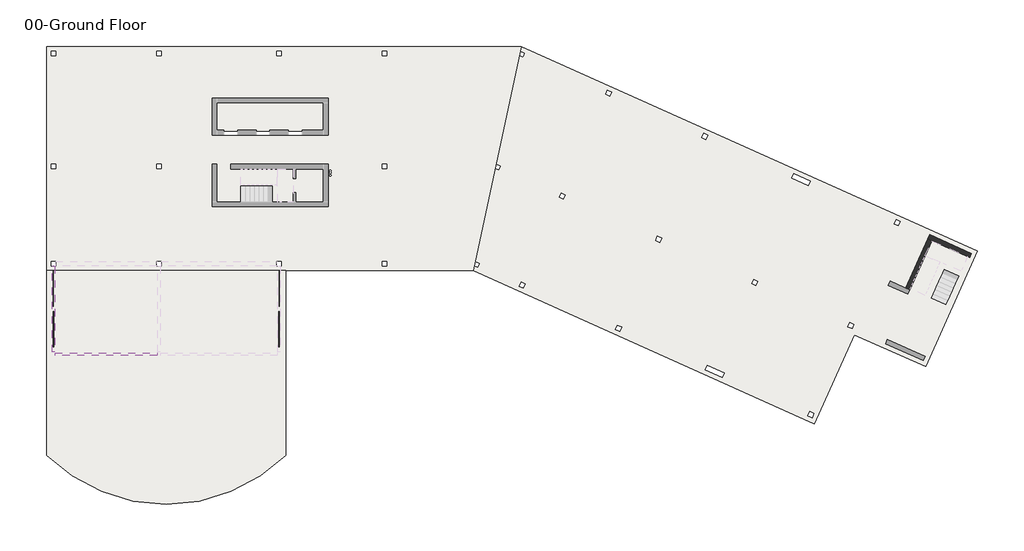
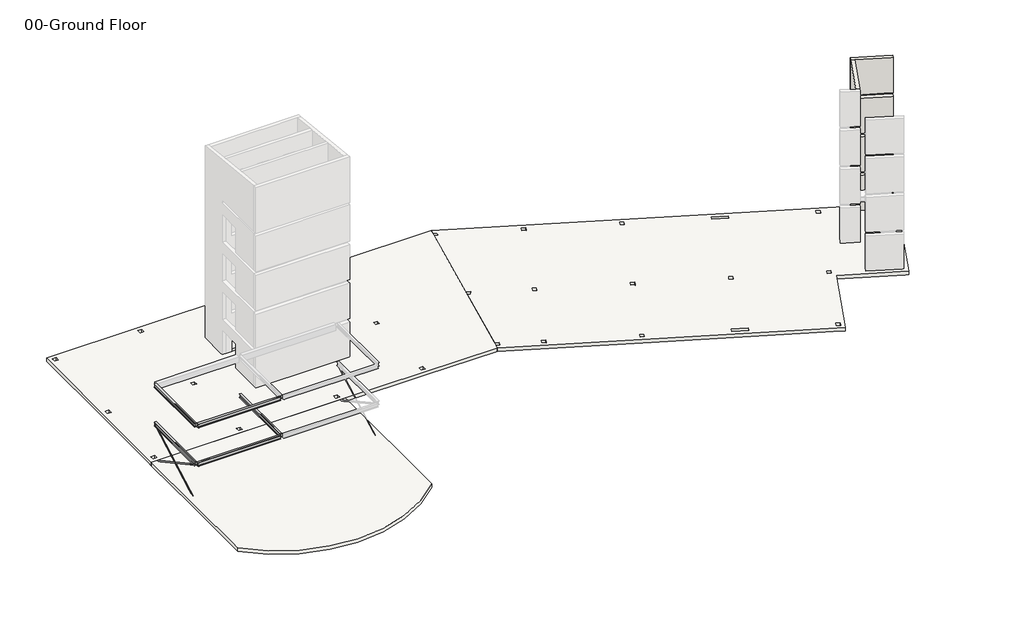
# One storey, part 2 of 5: 5 beams, 3 slabs, 2 members, 2 walls.
"""IFC4 building model written with IfcOpenShell, lengths in millimetres."""

from ifc_helpers import new_model, si_unit, frame, origin, place, context, project, spatial, polyline, circle_curve, faceted_brep, transform, mapped, element, save
from ifc_brep_helpers import plane_surface, cylinder_surface, revolved_surface, advanced_brep
from components import w_shapes_w12x26_268029d0, w_shapes_w12x26_8135fd55, flat_bars_fl_3_8x4_188fb4ee, flat_bars_fl_3_8x4_168c0369

model = new_model("IFC4")

# Units and contexts
model_context = context("Model", 3, world=origin())
ifc_project = project(units=[si_unit("LENGTHUNIT", "METRE", prefix="MILLI")], contexts=[model_context])

# Site, building, storey
site = spatial("IfcSite", under=ifc_project)
building = spatial("IfcBuilding", under=site)
storey = spatial("IfcBuildingStorey", under=building, Name="00-Ground Floor", Elevation=0.0)

# Beams
placement = place(None, origin())
w_shapes_w12x26_shape = w_shapes_w12x26_268029d0(model_context)
element("IfcBeam", 1, ObjectType="W Shapes : W12X26", at=placement, inside=storey, context=model_context, shape_type="MappedRepresentation", body=[
    mapped(w_shapes_w12x26_shape, transform((7010.4, -16998.95, 2994.66), x_axis=(0.0, 1.0, 0.0), y_axis=(-1.0, 0.0, 0.0), z_axis=(0.0, 0.0, 1.0))),
])
element("IfcBeam", 2, ObjectType="W Shapes : W12X26", at=placement, inside=storey, context=model_context, shape_type="MappedRepresentation", body=[
    mapped(w_shapes_w12x26_shape, transform((0.0, -16998.95, 2994.66), x_axis=(0.0, 1.0, 0.0), y_axis=(-1.0, 0.0, 0.0), z_axis=(0.0, 0.0, 1.0))),
])
element("IfcBeam", 3, ObjectType="W Shapes : W12X26", at=placement, inside=storey, context=model_context, shape_type="MappedRepresentation", body=[
    mapped(w_shapes_w12x26_shape, transform((0.0, -16998.95, 6347.46), x_axis=(0.0, 1.0, 0.0), y_axis=(-1.0, 0.0, 0.0), z_axis=(0.0, 0.0, 1.0))),
])
w_shapes_w12x26_2_shape = w_shapes_w12x26_8135fd55(model_context)
element("IfcBeam", 4, ObjectType="W Shapes : W12X26", at=placement, inside=storey, context=model_context, shape_type="MappedRepresentation", body=[
    mapped(w_shapes_w12x26_2_shape, transform((3505.2, -20002.5, 2994.66), x_axis=(-1.0, 0.0, 0.0), y_axis=(0.0, -1.0, 0.0), z_axis=(0.0, 0.0, 1.0))),
])
element("IfcBeam", 5, ObjectType="W Shapes : W12X26", at=placement, inside=storey, context=model_context, shape_type="MappedRepresentation", body=[
    mapped(w_shapes_w12x26_2_shape, transform((3505.2, -20002.5, 6347.46), x_axis=(-1.0, 0.0, 0.0), y_axis=(0.0, -1.0, 0.0), z_axis=(0.0, 0.0, 1.0))),
])

# Members
flat_bars_fl_3_8x4_shape = flat_bars_fl_3_8x4_188fb4ee(model_context)
element("IfcMember", 6, ObjectType="Flat Bars : FL 3/8X4", at=placement, inside=storey, context=model_context, shape_type="MappedRepresentation", body=[
    mapped(flat_bars_fl_3_8x4_shape, transform((9.525, -16998.95, 1344.93), x_axis=(0.0, 0.8764896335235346, 0.4814207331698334), y_axis=(-1.0, 0.0, 0.0), z_axis=(0.0, -0.4814207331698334, 0.8764896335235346))),
])
flat_bars_fl_3_8x4_2_shape = flat_bars_fl_3_8x4_168c0369(model_context)
element("IfcMember", 7, ObjectType="Flat Bars : FL 3/8X4", at=placement, inside=storey, context=model_context, shape_type="MappedRepresentation", body=[
    mapped(flat_bars_fl_3_8x4_2_shape, transform((0.0, -16998.95, 1344.93), x_axis=(0.0, -0.8764896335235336, 0.48142073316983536), y_axis=(1.0, 0.0, 0.0), z_axis=(0.0, 0.48142073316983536, 0.8764896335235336))),
])

# Slabs
element("IfcSlab", 8, ObjectType="RC Slab 12\"", at=placement, inside=storey, context=model_context, shape_type="SolidModel", body=[
    faceted_brep([(10858.5, -3289.3, -304.8), (12712.7, -3289.3, -304.8), (13017.5, -3289.3, -304.8), (14846.3, -3289.3, -304.8), (15151.1, -3289.3, -304.8), (17945.1, -3289.3, -304.8), (17945.1, -5168.9, -304.8), (15151.1, -5168.9, -304.8), (14846.3, -5168.9, -304.8), (13017.5, -5168.9, -304.8), (12712.7, -5168.9, -304.8), (10858.5, -5168.9, -304.8), (17945.1, -3289.3, 0.0), (15151.1, -3289.3, 0.0), (14846.3, -3289.3, 0.0), (13017.5, -3289.3, 0.0), (12712.7, -3289.3, 0.0), (10858.5, -3289.3, 0.0), (10858.5, -5118.1, 0.0), (10858.5, -5168.9, 0.0), (17945.1, -5168.9, 0.0), (17945.1, -5118.1, 0.0)], [[[0, 1, 2, 3, 4, 5, 6, 7, 8, 9, 10, 11]], [[12, 13, 14, 15, 16, 17, 18, 19, 20, 21]], [[5, 4, 3, 2, 1, 0, 17, 16, 15, 14, 13, 12]], [[0, 11, 19, 18, 17]], [[6, 20, 19, 11, 10, 9, 8, 7]], [[6, 5, 12, 21, 20]]]),
    advanced_brep(
    [(-457.2, 457.2, -304.8), (7010.4, 457.2, -304.8), (14998.7, 457.2, -304.8), (22009.1, 457.2, -304.8), (31098.7387393, 457.2, -304.8), (30902.7958822, -457.2, -304.8), (28099.7244536, -13538.2, -304.8), (27903.7815965, -14452.6, -304.8), (22009.1, -14452.6, -304.8), (15455.9, -14452.6, -304.8), (-457.2, -14452.6, -304.8), (-457.2, -13995.4, -304.8), (-457.2, -7505.7, -304.8), (18347.8020543, -8109.4381113, -304.8), (18449.4020543, -8109.4381113, -304.8), (18347.8020543, -7957.0381113, -304.8), (18449.4020543, -7957.0381113, -304.8), (18347.8020543, -7804.6381113, -304.8), (18449.4020543, -7804.6381113, -304.8), (152.4, -152.4, -304.8), (152.4, 152.4, -304.8), (-152.4, 152.4, -304.8), (-152.4, -152.4, -304.8), (7162.8, -152.4, -304.8), (7162.8, 152.4, -304.8), (6858.0, 152.4, -304.8), (6858.0, -152.4, -304.8), (15151.1, -152.4, -304.8), (15151.1, 152.4, -304.8), (14846.3, 152.4, -304.8), (14846.3, -152.4, -304.8), (22161.5, -152.4, -304.8), (22161.5, 152.4, -304.8), (21856.7, 152.4, -304.8), (21856.7, -152.4, -304.8), (22161.5, -7658.1, -304.8), (22161.5, -7353.3, -304.8), (21856.7, -7353.3, -304.8), (21856.7, -7658.1, -304.8), (7162.8, -7658.1, -304.8), (7162.8, -7353.3, -304.8), (6858.0, -7353.3, -304.8), (6858.0, -7658.1, -304.8), (152.4, -7658.1, -304.8), (152.4, -7353.3, -304.8), (-152.4, -7353.3, -304.8), (-152.4, -7658.1, -304.8), (152.4, -14147.8, -304.8), (152.4, -13843.0, -304.8), (-152.4, -13843.0, -304.8), (-152.4, -14147.8, -304.8), (15151.1, -14147.8, -304.8), (15151.1, -13843.0, -304.8), (14846.3, -13843.0, -304.8), (14846.3, -14147.8, -304.8), (22161.5, -14147.8, -304.8), (22161.5, -13843.0, -304.8), (21856.7, -13843.0, -304.8), (21856.7, -14147.8, -304.8), (7162.8, -14147.8, -304.8), (7162.8, -13843.0, -304.8), (6858.0, -13843.0, -304.8), (6858.0, -14147.8, -304.8), (10553.7, -5422.9, -304.8), (18249.9, -5422.9, -304.8), (18249.9, -2984.5, -304.8), (15252.7, -2984.5, -304.8), (14744.7, -2984.5, -304.8), (10553.7, -2984.5, -304.8), (31098.7387393, 457.2, 0.0), (-457.2, 457.2, 0.0), (-457.2, -14452.6, 0.0), (15455.9, -14452.6, 0.0), (27903.7815965, -14452.6, 0.0), (18449.4020543, -8109.4381113, 0.0), (18347.8020543, -8109.4381113, 0.0), (18449.4020543, -7957.0381113, 0.0), (18347.8020543, -7957.0381113, 0.0), (18449.4020543, -7804.6381113, 0.0), (18347.8020543, -7804.6381113, 0.0), (18249.9, -2984.5, 0.0), (18249.9, -3289.3, 0.0), (18249.9, -5422.9, 0.0), (17945.1, -5422.9, 0.0), (10553.7, -5422.9, 0.0), (10553.7, -5168.9, 0.0), (10553.7, -2984.5, 0.0), (10858.5, -2984.5, 0.0), (152.4, 152.4, 0.0), (152.4, -152.4, 0.0), (-152.4, -152.4, 0.0), (-152.4, 152.4, 0.0), (7162.8, 152.4, 0.0), (7162.8, -152.4, 0.0), (6858.0, -152.4, 0.0), (6858.0, 152.4, 0.0), (15151.1, 152.4, 0.0), (15151.1, -152.4, 0.0), (14846.3, -152.4, 0.0), (14846.3, 152.4, 0.0), (22161.5, 152.4, 0.0), (22161.5, -152.4, 0.0), (21856.7, -152.4, 0.0), (21856.7, 152.4, 0.0), (22161.5, -7353.3, 0.0), (22161.5, -7658.1, 0.0), (21856.7, -7658.1, 0.0), (21856.7, -7353.3, 0.0), (7162.8, -7353.3, 0.0), (7162.8, -7658.1, 0.0), (6858.0, -7658.1, 0.0), (6858.0, -7353.3, 0.0), (152.4, -7353.3, 0.0), (152.4, -7658.1, 0.0), (-152.4, -7658.1, 0.0), (-152.4, -7353.3, 0.0), (152.4, -13843.0, 0.0), (152.4, -14147.8, 0.0), (-152.4, -14147.8, 0.0), (-152.4, -13843.0, 0.0), (15151.1, -13843.0, 0.0), (15151.1, -14147.8, 0.0), (14846.3, -14147.8, 0.0), (14846.3, -13843.0, 0.0), (22161.5, -13843.0, 0.0), (22161.5, -14147.8, 0.0), (21856.7, -14147.8, 0.0), (21856.7, -13843.0, 0.0), (7162.8, -13843.0, 0.0), (7162.8, -14147.8, 0.0), (6858.0, -14147.8, 0.0), (6858.0, -13843.0, 0.0)],
    [
        (0, 1),
        (1, 2),
        (2, 3),
        (3, 4),
        (4, 5),
        (5, 6),
        (6, 7),
        (7, 8),
        (8, 9),
        (9, 10),
        (10, 11),
        (11, 12),
        (12, 0),
        (13, 14, circle_curve(frame((18398.6020543, -8109.4381113, -304.8), z_axis=(0.0, 0.0, 1.0), x_axis=(1.0, 0.0, 0.0)), 50.8)),
        (14, 13, circle_curve(frame((18398.6020543, -8109.4381113, -304.8), z_axis=(0.0, 0.0, 1.0), x_axis=(1.0, 0.0, 0.0)), 50.8)),
        (15, 16, circle_curve(frame((18398.6020543, -7957.0381113, -304.8), z_axis=(0.0, 0.0, 1.0), x_axis=(1.0, 0.0, 0.0)), 50.8)),
        (16, 15, circle_curve(frame((18398.6020543, -7957.0381113, -304.8), z_axis=(0.0, 0.0, 1.0), x_axis=(1.0, 0.0, 0.0)), 50.8)),
        (17, 18, circle_curve(frame((18398.6020543, -7804.6381113, -304.8), z_axis=(0.0, 0.0, 1.0), x_axis=(1.0, 0.0, 0.0)), 50.8)),
        (18, 17, circle_curve(frame((18398.6020543, -7804.6381113, -304.8), z_axis=(0.0, 0.0, 1.0), x_axis=(1.0, 0.0, 0.0)), 50.8)),
        (19, 20),
        (20, 21),
        (21, 22),
        (22, 19),
        (23, 24),
        (24, 25),
        (25, 26),
        (26, 23),
        (27, 28),
        (28, 29),
        (29, 30),
        (30, 27),
        (31, 32),
        (32, 33),
        (33, 34),
        (34, 31),
        (35, 36),
        (36, 37),
        (37, 38),
        (38, 35),
        (39, 40),
        (40, 41),
        (41, 42),
        (42, 39),
        (43, 44),
        (44, 45),
        (45, 46),
        (46, 43),
        (47, 48),
        (48, 49),
        (49, 50),
        (50, 47),
        (51, 52),
        (52, 53),
        (53, 54),
        (54, 51),
        (55, 56),
        (56, 57),
        (57, 58),
        (58, 55),
        (59, 60),
        (60, 61),
        (61, 62),
        (62, 59),
        (63, 64),
        (64, 65),
        (65, 66),
        (66, 67),
        (67, 68),
        (68, 63),
        (69, 70),
        (70, 71),
        (71, 72),
        (72, 73),
        (73, 69),
        (74, 75, circle_curve(frame((18398.6020543, -8109.4381113, 0.0), z_axis=(0.0, 0.0, -1.0), x_axis=(1.0, 0.0, 0.0)), 50.8)),
        (75, 74, circle_curve(frame((18398.6020543, -8109.4381113, 0.0), z_axis=(0.0, 0.0, -1.0), x_axis=(1.0, 0.0, 0.0)), 50.8)),
        (76, 77, circle_curve(frame((18398.6020543, -7957.0381113, 0.0), z_axis=(0.0, 0.0, -1.0), x_axis=(1.0, 0.0, 0.0)), 50.8)),
        (77, 76, circle_curve(frame((18398.6020543, -7957.0381113, 0.0), z_axis=(0.0, 0.0, -1.0), x_axis=(1.0, 0.0, 0.0)), 50.8)),
        (78, 79, circle_curve(frame((18398.6020543, -7804.6381113, 0.0), z_axis=(0.0, 0.0, -1.0), x_axis=(1.0, 0.0, 0.0)), 50.8)),
        (79, 78, circle_curve(frame((18398.6020543, -7804.6381113, 0.0), z_axis=(0.0, 0.0, -1.0), x_axis=(1.0, 0.0, 0.0)), 50.8)),
        (80, 81),
        (81, 82),
        (82, 83),
        (83, 84),
        (84, 85),
        (85, 86),
        (86, 87),
        (87, 80),
        (88, 89),
        (89, 90),
        (90, 91),
        (91, 88),
        (92, 93),
        (93, 94),
        (94, 95),
        (95, 92),
        (96, 97),
        (97, 98),
        (98, 99),
        (99, 96),
        (100, 101),
        (101, 102),
        (102, 103),
        (103, 100),
        (104, 105),
        (105, 106),
        (106, 107),
        (107, 104),
        (108, 109),
        (109, 110),
        (110, 111),
        (111, 108),
        (112, 113),
        (113, 114),
        (114, 115),
        (115, 112),
        (116, 117),
        (117, 118),
        (118, 119),
        (119, 116),
        (120, 121),
        (121, 122),
        (122, 123),
        (123, 120),
        (124, 125),
        (125, 126),
        (126, 127),
        (127, 124),
        (128, 129),
        (129, 130),
        (130, 131),
        (131, 128),
        (0, 70),
        (69, 4),
        (73, 7),
        (71, 10),
        (13, 75),
        (74, 14),
        (15, 77),
        (76, 16),
        (17, 79),
        (78, 18),
        (65, 80),
        (86, 68),
        (64, 82),
        (84, 63),
        (19, 89),
        (88, 20),
        (22, 90),
        (21, 91),
        (23, 93),
        (92, 24),
        (26, 94),
        (25, 95),
        (27, 97),
        (96, 28),
        (30, 98),
        (29, 99),
        (31, 101),
        (100, 32),
        (34, 102),
        (33, 103),
        (35, 105),
        (104, 36),
        (38, 106),
        (37, 107),
        (39, 109),
        (108, 40),
        (42, 110),
        (41, 111),
        (43, 113),
        (112, 44),
        (46, 114),
        (45, 115),
        (47, 117),
        (116, 48),
        (50, 118),
        (49, 119),
        (51, 121),
        (120, 52),
        (54, 122),
        (53, 123),
        (55, 125),
        (124, 56),
        (58, 126),
        (57, 127),
        (59, 129),
        (128, 60),
        (62, 130),
        (61, 131),
    ],
    [
        plane_surface(frame((0.0, 457.2, -304.8), z_axis=(0.0, 0.0, -1.0), x_axis=(1.0, 0.0, 0.0))),
        plane_surface(frame((0.0, 457.2, 0.0), z_axis=(0.0, 0.0, 1.0), x_axis=(-1.0, 0.0, 0.0))),
        plane_surface(frame((-457.2, 457.2, -304.8), z_axis=(0.0, 1.0, 0.0), x_axis=(0.0, 0.0, 1.0))),
        plane_surface(frame((31098.7387393, 457.2, -304.8), z_axis=(0.9778024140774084, -0.2095290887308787, 0.0), x_axis=(0.0, 0.0, 1.0))),
        plane_surface(frame((27903.7815965, -14452.6, -304.8), z_axis=(0.0, -1.0, 0.0), x_axis=(0.0, 0.0, 1.0))),
        plane_surface(frame((-457.2, -14452.6, -304.8), z_axis=(-1.0, 0.0, 0.0), x_axis=(0.0, 0.0, 1.0))),
        revolved_surface(polyline([(18449.4020543, -8109.4381113, 0.0), (18449.4020543, -8109.4381113, -304.8)]), (18398.6020543, -8109.4381113, -609.6), (0.0, 0.0, 1.0)),
        revolved_surface(polyline([(18449.4020543, -7957.0381113, 0.0), (18449.4020543, -7957.0381113, -304.8)]), (18398.6020543, -7957.0381113, -609.6), (0.0, 0.0, 1.0)),
        revolved_surface(polyline([(18449.4020543, -7804.6381113, 0.0), (18449.4020543, -7804.6381113, -304.8)]), (18398.6020543, -7804.6381113, -609.6), (0.0, 0.0, 1.0)),
        plane_surface(frame((17694.8895727, -2984.5, -2133.6), z_axis=(0.0, -1.0, 0.0), x_axis=(-1.0, 0.0, 0.0))),
        plane_surface(frame((18249.9, -6083.3, -2133.6), z_axis=(-1.0, 0.0, 0.0), x_axis=(0.0, 1.0, 0.0))),
        plane_surface(frame((10553.7, -5829.3, -2133.6), z_axis=(1.0, 0.0, 0.0), x_axis=(0.0, -1.0, 0.0))),
        plane_surface(frame((10706.1, -5422.9, -2133.6), z_axis=(0.0, 1.0, 0.0), x_axis=(1.0, 0.0, 0.0))),
        plane_surface(frame((152.4, -152.4, 10058.4), z_axis=(-1.0, 0.0, 0.0), x_axis=(0.0, 0.0, -1.0))),
        plane_surface(frame((-152.4, -152.4, 10058.4), z_axis=(0.0, 1.0, 0.0), x_axis=(0.0, 0.0, -1.0))),
        plane_surface(frame((-152.4, 152.4, 10058.4), z_axis=(1.0, 0.0, 0.0), x_axis=(0.0, 0.0, -1.0))),
        plane_surface(frame((152.4, 152.4, 10058.4), z_axis=(0.0, -1.0, 0.0), x_axis=(0.0, 0.0, -1.0))),
        plane_surface(frame((7162.8, -152.4, 10058.4), z_axis=(-1.0, 0.0, 0.0), x_axis=(0.0, 0.0, -1.0))),
        plane_surface(frame((6858.0, -152.4, 10058.4), z_axis=(0.0, 1.0, 0.0), x_axis=(0.0, 0.0, -1.0))),
        plane_surface(frame((6858.0, 152.4, 10058.4), z_axis=(1.0, 0.0, 0.0), x_axis=(0.0, 0.0, -1.0))),
        plane_surface(frame((7162.8, 152.4, 10058.4), z_axis=(0.0, -1.0, 0.0), x_axis=(0.0, 0.0, -1.0))),
        plane_surface(frame((15151.1, -152.4, 10058.4), z_axis=(-1.0, 0.0, 0.0), x_axis=(0.0, 0.0, -1.0))),
        plane_surface(frame((14846.3, -152.4, 10058.4), z_axis=(0.0, 1.0, 0.0), x_axis=(0.0, 0.0, -1.0))),
        plane_surface(frame((14846.3, 152.4, 10058.4), z_axis=(1.0, 0.0, 0.0), x_axis=(0.0, 0.0, -1.0))),
        plane_surface(frame((15151.1, 152.4, 10058.4), z_axis=(0.0, -1.0, 0.0), x_axis=(0.0, 0.0, -1.0))),
        plane_surface(frame((22161.5, -152.4, 10058.4), z_axis=(-1.0, 0.0, 0.0), x_axis=(0.0, 0.0, -1.0))),
        plane_surface(frame((21856.7, -152.4, 10058.4), z_axis=(0.0, 1.0, 0.0), x_axis=(0.0, 0.0, -1.0))),
        plane_surface(frame((21856.7, 152.4, 10058.4), z_axis=(1.0, 0.0, 0.0), x_axis=(0.0, 0.0, -1.0))),
        plane_surface(frame((22161.5, 152.4, 10058.4), z_axis=(0.0, -1.0, 0.0), x_axis=(0.0, 0.0, -1.0))),
        plane_surface(frame((22161.5, -7658.1, 10058.4), z_axis=(-1.0, 0.0, 0.0), x_axis=(0.0, 0.0, -1.0))),
        plane_surface(frame((21856.7, -7658.1, 10058.4), z_axis=(0.0, 1.0, 0.0), x_axis=(0.0, 0.0, -1.0))),
        plane_surface(frame((21856.7, -7353.3, 10058.4), z_axis=(1.0, 0.0, 0.0), x_axis=(0.0, 0.0, -1.0))),
        plane_surface(frame((22161.5, -7353.3, 10058.4), z_axis=(0.0, -1.0, 0.0), x_axis=(0.0, 0.0, -1.0))),
        plane_surface(frame((7162.8, -7658.1, 10058.4), z_axis=(-1.0, 0.0, 0.0), x_axis=(0.0, 0.0, -1.0))),
        plane_surface(frame((6858.0, -7658.1, 10058.4), z_axis=(0.0, 1.0, 0.0), x_axis=(0.0, 0.0, -1.0))),
        plane_surface(frame((6858.0, -7353.3, 10058.4), z_axis=(1.0, 0.0, 0.0), x_axis=(0.0, 0.0, -1.0))),
        plane_surface(frame((7162.8, -7353.3, 10058.4), z_axis=(0.0, -1.0, 0.0), x_axis=(0.0, 0.0, -1.0))),
        plane_surface(frame((152.4, -7658.1, 10058.4), z_axis=(-1.0, 0.0, 0.0), x_axis=(0.0, 0.0, -1.0))),
        plane_surface(frame((-152.4, -7658.1, 10058.4), z_axis=(0.0, 1.0, 0.0), x_axis=(0.0, 0.0, -1.0))),
        plane_surface(frame((-152.4, -7353.3, 10058.4), z_axis=(1.0, 0.0, 0.0), x_axis=(0.0, 0.0, -1.0))),
        plane_surface(frame((152.4, -7353.3, 10058.4), z_axis=(0.0, -1.0, 0.0), x_axis=(0.0, 0.0, -1.0))),
        plane_surface(frame((152.4, -14147.8, 10058.4), z_axis=(-1.0, 0.0, 0.0), x_axis=(0.0, 0.0, -1.0))),
        plane_surface(frame((-152.4, -14147.8, 10058.4), z_axis=(0.0, 1.0, 0.0), x_axis=(0.0, 0.0, -1.0))),
        plane_surface(frame((-152.4, -13843.0, 10058.4), z_axis=(1.0, 0.0, 0.0), x_axis=(0.0, 0.0, -1.0))),
        plane_surface(frame((152.4, -13843.0, 10058.4), z_axis=(0.0, -1.0, 0.0), x_axis=(0.0, 0.0, -1.0))),
        plane_surface(frame((15151.1, -14147.8, 10058.4), z_axis=(-1.0, 0.0, 0.0), x_axis=(0.0, 0.0, -1.0))),
        plane_surface(frame((14846.3, -14147.8, 10058.4), z_axis=(0.0, 1.0, 0.0), x_axis=(0.0, 0.0, -1.0))),
        plane_surface(frame((14846.3, -13843.0, 10058.4), z_axis=(1.0, 0.0, 0.0), x_axis=(0.0, 0.0, -1.0))),
        plane_surface(frame((15151.1, -13843.0, 10058.4), z_axis=(0.0, -1.0, 0.0), x_axis=(0.0, 0.0, -1.0))),
        plane_surface(frame((22161.5, -14147.8, 10058.4), z_axis=(-1.0, 0.0, 0.0), x_axis=(0.0, 0.0, -1.0))),
        plane_surface(frame((21856.7, -14147.8, 10058.4), z_axis=(0.0, 1.0, 0.0), x_axis=(0.0, 0.0, -1.0))),
        plane_surface(frame((21856.7, -13843.0, 10058.4), z_axis=(1.0, 0.0, 0.0), x_axis=(0.0, 0.0, -1.0))),
        plane_surface(frame((22161.5, -13843.0, 10058.4), z_axis=(0.0, -1.0, 0.0), x_axis=(0.0, 0.0, -1.0))),
        plane_surface(frame((7162.8, -14147.8, 10058.4), z_axis=(-1.0, 0.0, 0.0), x_axis=(0.0, 0.0, -1.0))),
        plane_surface(frame((6858.0, -14147.8, 10058.4), z_axis=(0.0, 1.0, 0.0), x_axis=(0.0, 0.0, -1.0))),
        plane_surface(frame((6858.0, -13843.0, 10058.4), z_axis=(1.0, 0.0, 0.0), x_axis=(0.0, 0.0, -1.0))),
        plane_surface(frame((7162.8, -13843.0, 10058.4), z_axis=(0.0, -1.0, 0.0), x_axis=(0.0, 0.0, -1.0))),
    ],
    [
        (0, [[1, 2, 3, 4, 5, 6, 7, 8, 9, 10, 11, 12, 13], [14, 15], [16, 17], [18, 19], [20, 21, 22, 23], [24, 25, 26, 27], [28, 29, 30, 31], [32, 33, 34, 35], [36, 37, 38, 39], [40, 41, 42, 43], [44, 45, 46, 47], [48, 49, 50, 51], [52, 53, 54, 55], [56, 57, 58, 59], [60, 61, 62, 63], [64, 65, 66, 67, 68, 69]]),
        (1, [[70, 71, 72, 73, 74], [75, 76], [77, 78], [79, 80], [81, 82, 83, 84, 85, 86, 87, 88], [89, 90, 91, 92], [93, 94, 95, 96], [97, 98, 99, 100], [101, 102, 103, 104], [105, 106, 107, 108], [109, 110, 111, 112], [113, 114, 115, 116], [117, 118, 119, 120], [121, 122, 123, 124], [125, 126, 127, 128], [129, 130, 131, 132]]),
        (2, [[-4, -3, -2, -1, 133, -70, 134]]),
        (3, [[-7, -6, -5, -134, -74, 135]]),
        (4, [[-10, -9, -8, -135, -73, -72, 136]]),
        (5, [[-13, -12, -11, -136, -71, -133]]),
        (6, [[137, -75, 138, -14]]),
        (6, [[-137, -15, -138, -76]]),
        (7, [[139, -77, 140, -16]]),
        (7, [[-139, -17, -140, -78]]),
        (8, [[141, -79, 142, -18]]),
        (8, [[-141, -19, -142, -80]]),
        (9, [[143, -88, -87, 144, -68, -67, -66]]),
        (10, [[-143, -65, 145, -82, -81]]),
        (11, [[-144, -86, -85, 146, -69]]),
        (12, [[-146, -84, -83, -145, -64]]),
        (13, [[147, -89, 148, -20]]),
        (14, [[-147, -23, 149, -90]]),
        (15, [[-149, -22, 150, -91]]),
        (16, [[-150, -21, -148, -92]]),
        (17, [[151, -93, 152, -24]]),
        (18, [[-151, -27, 153, -94]]),
        (19, [[-153, -26, 154, -95]]),
        (20, [[-154, -25, -152, -96]]),
        (21, [[155, -97, 156, -28]]),
        (22, [[-155, -31, 157, -98]]),
        (23, [[-157, -30, 158, -99]]),
        (24, [[-158, -29, -156, -100]]),
        (25, [[159, -101, 160, -32]]),
        (26, [[-159, -35, 161, -102]]),
        (27, [[-161, -34, 162, -103]]),
        (28, [[-162, -33, -160, -104]]),
        (29, [[163, -105, 164, -36]]),
        (30, [[-163, -39, 165, -106]]),
        (31, [[-165, -38, 166, -107]]),
        (32, [[-166, -37, -164, -108]]),
        (33, [[167, -109, 168, -40]]),
        (34, [[-167, -43, 169, -110]]),
        (35, [[-169, -42, 170, -111]]),
        (36, [[-170, -41, -168, -112]]),
        (37, [[171, -113, 172, -44]]),
        (38, [[-171, -47, 173, -114]]),
        (39, [[-173, -46, 174, -115]]),
        (40, [[-174, -45, -172, -116]]),
        (41, [[175, -117, 176, -48]]),
        (42, [[-175, -51, 177, -118]]),
        (43, [[-177, -50, 178, -119]]),
        (44, [[-178, -49, -176, -120]]),
        (45, [[179, -121, 180, -52]]),
        (46, [[-179, -55, 181, -122]]),
        (47, [[-181, -54, 182, -123]]),
        (48, [[-182, -53, -180, -124]]),
        (49, [[183, -125, 184, -56]]),
        (50, [[-183, -59, 185, -126]]),
        (51, [[-185, -58, 186, -127]]),
        (52, [[-186, -57, -184, -128]]),
        (53, [[187, -129, 188, -60]]),
        (54, [[-187, -63, 189, -130]]),
        (55, [[-189, -62, 190, -131]]),
        (56, [[-190, -61, -188, -132]]),
    ],
),
])
element("IfcSlab", 9, ObjectType="RC Slab 12\"", at=placement, inside=storey, context=model_context, shape_type="Brep", body=[
    faceted_brep([(61413.0546278, -13159.9258537, -304.8), (61308.976579, -13391.6234146, -304.8), (57962.8673107, -20840.7, -304.8), (57731.1697498, -20736.6219512, -304.8), (53236.2370668, -18717.5078049, -304.8), (50577.0429205, -24637.3804878, -304.8), (50345.3453595, -24533.302439, -304.8), (37370.2819449, -18704.9317073, -304.8), (27903.7815965, -14452.6, -304.8), (27969.0988162, -14147.786308, -304.8), (28217.3432689, -14259.3121951, -304.8), (28342.2369275, -13981.275122, -304.8), (28034.4045592, -13843.0124873, -304.8), (28099.7244536, -13538.2, -304.8), (29359.7488162, -7658.086308, -304.8), (29607.9932689, -7769.6121951, -304.8), (29732.8869275, -7491.575122, -304.8), (29425.0545592, -7353.3124873, -304.8), (30902.7958822, -457.2, -304.8), (30968.1131019, -152.386308, -304.8), (31216.3575546, -263.9121951, -304.8), (31341.2512132, 14.124878, -304.8), (31033.4188449, 152.3875127, -304.8), (31098.7387393, 457.2, -304.8), (43479.6634083, -5104.284878, -304.8), (37098.9356034, -2572.2146341, -304.8), (36820.8985303, -2447.3209756, -304.8), (36696.0048717, -2725.3580488, -304.8), (36974.0419449, -2850.2517073, -304.8), (43493.7882864, -5444.7687805, -304.8), (43215.7512132, -5319.875122, -304.8), (43090.8575546, -5597.9121951, -304.8), (43368.8946278, -5722.8058537, -304.8), (56283.4936522, -11189.8770732, -304.8), (56005.456579, -11064.9834146, -304.8), (55880.5629205, -11343.0204878, -304.8), (56158.5999937, -11467.9141463, -304.8), (53207.9873107, -18036.54, -304.8), (52929.9502376, -17911.6463415, -304.8), (52805.056579, -18189.6834146, -304.8), (53083.0936522, -18314.5770732, -304.8), (50548.7931644, -23956.4126829, -304.8), (50270.7560912, -23831.5190244, -304.8), (50145.8624327, -24109.5560976, -304.8), (50423.8995059, -24234.4497561, -304.8), (37759.0877985, -18211.3043902, -304.8), (37481.0507254, -18086.4107317, -304.8), (37356.1570668, -18364.4478049, -304.8), (37634.19414, -18489.3414634, -304.8), (31364.2351156, -15338.7502439, -304.8), (31086.1980425, -15213.8565854, -304.8), (30961.3043839, -15491.8936585, -304.8), (31239.3414571, -15616.7873171, -304.8), (34023.429262, -9418.877561, -304.8), (33745.3921888, -9293.9839024, -304.8), (33620.4985303, -9572.0209756, -304.8), (33898.5356034, -9696.9146341, -304.8), (40418.2819449, -12291.4317073, -304.8), (40140.2448717, -12166.5380488, -304.8), (40015.3512132, -12444.575122, -304.8), (40293.3882864, -12569.4687805, -304.8), (46813.1346278, -15163.9858537, -304.8), (46535.0975546, -15039.0921951, -304.8), (46410.2038961, -15317.1292683, -304.8), (46688.2409693, -15442.0229268, -304.8), (43333.95414, -21049.6614634, -304.8), (44446.1024327, -21549.2360976, -304.8), (44570.9960912, -21271.1990244, -304.8), (43458.8477985, -20771.6243902, -304.8), (49068.6546278, -8283.1258537, -304.8), (50180.8029205, -8782.7004878, -304.8), (50305.696579, -8504.6634146, -304.8), (49193.5482864, -8005.0887805, -304.8), (57962.8673107, -20840.7, 0.0), (61413.0546278, -13159.9258537, 0.0), (31098.7387393, 457.2, 0.0), (31033.4244536, 152.4, 0.0), (31341.2512132, 14.124878, 0.0), (31216.3575546, -263.9121951, 0.0), (30968.1131019, -152.386308, 0.0), (29425.0601679, -7353.3, 0.0), (29732.8869275, -7491.575122, 0.0), (29607.9932689, -7769.6121951, 0.0), (29359.7488162, -7658.086308, 0.0), (28034.4101679, -13843.0, 0.0), (28342.2369275, -13981.275122, 0.0), (28217.3432689, -14259.3121951, 0.0), (27969.0988162, -14147.786308, 0.0), (27903.7815965, -14452.6, 0.0), (50577.0429205, -24637.3804878, 0.0), (53236.2370668, -18717.5078049, 0.0), (36820.8985303, -2447.3209756, 0.0), (37098.9356034, -2572.2146341, 0.0), (36974.0419449, -2850.2517073, 0.0), (36696.0048717, -2725.3580488, 0.0), (43215.7512132, -5319.875122, 0.0), (43493.7882864, -5444.7687805, 0.0), (43368.8946278, -5722.8058537, 0.0), (43090.8575546, -5597.9121951, 0.0), (56005.456579, -11064.9834146, 0.0), (56283.4936522, -11189.8770732, 0.0), (56158.5999937, -11467.9141463, 0.0), (55880.5629205, -11343.0204878, 0.0), (52929.9502376, -17911.6463415, 0.0), (53207.9873107, -18036.54, 0.0), (53083.0936522, -18314.5770732, 0.0), (52805.056579, -18189.6834146, 0.0), (50270.7560912, -23831.5190244, 0.0), (50548.7931644, -23956.4126829, 0.0), (50423.8995059, -24234.4497561, 0.0), (50145.8624327, -24109.5560976, 0.0), (37481.0507254, -18086.4107317, 0.0), (37759.0877985, -18211.3043902, 0.0), (37634.19414, -18489.3414634, 0.0), (37356.1570668, -18364.4478049, 0.0), (31086.1980425, -15213.8565854, 0.0), (31364.2351156, -15338.7502439, 0.0), (31239.3414571, -15616.7873171, 0.0), (30961.3043839, -15491.8936585, 0.0), (33745.3921888, -9293.9839024, 0.0), (34023.429262, -9418.877561, 0.0), (33898.5356034, -9696.9146341, 0.0), (33620.4985303, -9572.0209756, 0.0), (40140.2448717, -12166.5380488, 0.0), (40418.2819449, -12291.4317073, 0.0), (40293.3882864, -12569.4687805, 0.0), (40015.3512132, -12444.575122, 0.0), (46535.0975546, -15039.0921951, 0.0), (46813.1346278, -15163.9858537, 0.0), (46688.2409693, -15442.0229268, 0.0), (46410.2038961, -15317.1292683, 0.0), (44446.1024327, -21549.2360976, 0.0), (43333.95414, -21049.6614634, 0.0), (43458.8477985, -20771.6243902, 0.0), (44570.9960912, -21271.1990244, 0.0), (50180.8029205, -8782.7004878, 0.0), (49068.6546278, -8283.1258537, 0.0), (49193.5482864, -8005.0887805, 0.0), (50305.696579, -8504.6634146, 0.0)], [[[0, 1, 2, 3, 4, 5, 6, 7, 8, 9, 10, 11, 12, 13, 14, 15, 16, 17, 18, 19, 20, 21, 22, 23, 24], [25, 26, 27, 28], [29, 30, 31, 32], [33, 34, 35, 36], [37, 38, 39, 40], [41, 42, 43, 44], [45, 46, 47, 48], [49, 50, 51, 52], [53, 54, 55, 56], [57, 58, 59, 60], [61, 62, 63, 64], [65, 66, 67, 68], [69, 70, 71, 72]], [[73, 74, 75, 76, 77, 78, 79, 80, 81, 82, 83, 84, 85, 86, 87, 88, 89, 90], [91, 92, 93, 94], [95, 96, 97, 98], [99, 100, 101, 102], [103, 104, 105, 106], [107, 108, 109, 110], [111, 112, 113, 114], [115, 116, 117, 118], [119, 120, 121, 122], [123, 124, 125, 126], [127, 128, 129, 130], [131, 132, 133, 134], [135, 136, 137, 138]], [[2, 1, 0, 74, 73]], [[4, 3, 2, 73, 90]], [[5, 4, 90, 89]], [[8, 7, 6, 5, 89, 88]], [[8, 88, 87, 9]], [[75, 23, 22, 76]], [[12, 84, 83, 14, 13]], [[79, 19, 18, 17, 80]], [[0, 24, 23, 75, 74]], [[11, 85, 84, 12]], [[85, 11, 10, 86]], [[86, 10, 9, 87]], [[21, 77, 76, 22]], [[77, 21, 20, 78]], [[78, 20, 19, 79]], [[16, 81, 80, 17]], [[81, 16, 15, 82]], [[82, 15, 14, 83]], [[25, 92, 91, 26]], [[92, 25, 28, 93]], [[93, 28, 27, 94]], [[94, 27, 26, 91]], [[29, 96, 95, 30]], [[96, 29, 32, 97]], [[97, 32, 31, 98]], [[98, 31, 30, 95]], [[33, 100, 99, 34]], [[100, 33, 36, 101]], [[101, 36, 35, 102]], [[102, 35, 34, 99]], [[37, 104, 103, 38]], [[104, 37, 40, 105]], [[105, 40, 39, 106]], [[106, 39, 38, 103]], [[41, 108, 107, 42]], [[108, 41, 44, 109]], [[109, 44, 43, 110]], [[110, 43, 42, 107]], [[45, 112, 111, 46]], [[112, 45, 48, 113]], [[113, 48, 47, 114]], [[114, 47, 46, 111]], [[49, 116, 115, 50]], [[116, 49, 52, 117]], [[117, 52, 51, 118]], [[118, 51, 50, 115]], [[53, 120, 119, 54]], [[120, 53, 56, 121]], [[121, 56, 55, 122]], [[122, 55, 54, 119]], [[57, 124, 123, 58]], [[124, 57, 60, 125]], [[125, 60, 59, 126]], [[126, 59, 58, 123]], [[61, 128, 127, 62]], [[128, 61, 64, 129]], [[129, 64, 63, 130]], [[130, 63, 62, 127]], [[65, 132, 131, 66]], [[67, 134, 133, 68]], [[66, 131, 134, 67]], [[132, 65, 68, 133]], [[69, 136, 135, 70]], [[71, 138, 137, 72]], [[70, 135, 138, 71]], [[136, 69, 72, 137]]]),
])
element("IfcSlab", 10, ObjectType="RC Slab 12\"", at=placement, inside=storey, context=model_context, shape_type="AdvancedBrep", body=[
    advanced_brep(
    [(15455.9, -26723.3402351, -304.8), (-457.2, -26723.3402351, -304.8), (-457.2, -20002.5, -304.8), (-457.2, -14452.6, -304.8), (15455.9, -14452.6, -304.8), (15455.9, -20002.5, -304.8), (15455.9, -26723.3402351, 0.0), (15455.9, -14452.6, 0.0), (-457.2, -14452.6, 0.0), (-457.2, -26723.3402351, 0.0)],
    [
        (0, 1, circle_curve(frame((7499.35, -18686.6508475, -304.8), z_axis=(0.0, 0.0, -1.0), x_axis=(1.0, 0.0, 0.0)), 11309.0699979)),
        (1, 2),
        (2, 3),
        (3, 4),
        (4, 5),
        (5, 0),
        (6, 7),
        (7, 8),
        (8, 9),
        (9, 6, circle_curve(frame((7499.35, -18686.6508475, 0.0), z_axis=(0.0, 0.0, 1.0), x_axis=(1.0, 0.0, 0.0)), 11309.0699979)),
        (1, 9),
        (8, 3),
        (7, 4),
        (6, 0),
    ],
    [
        plane_surface(frame((18808.4199979, -18686.6508475, -304.8), z_axis=(0.0, 0.0, -1.0), x_axis=(0.0, -1.0, 0.0))),
        plane_surface(frame((18808.4199979, -18686.6508475, 0.0), z_axis=(0.0, 0.0, 1.0), x_axis=(0.0, 1.0, 0.0))),
        plane_surface(frame((-457.2, -26723.3402351, -304.8), z_axis=(-1.0, 0.0, 0.0), x_axis=(0.0, 0.0, 1.0))),
        plane_surface(frame((-457.2, -14452.6, -304.8), z_axis=(0.0, 1.0, 0.0), x_axis=(0.0, 0.0, 1.0))),
        plane_surface(frame((15455.9, -14452.6, -304.8), z_axis=(1.0, 0.0, 0.0), x_axis=(0.0, 0.0, 1.0))),
        cylinder_surface(frame((7499.35, -18686.6508475, 0.0), z_axis=(0.0, 0.0, -1.0), x_axis=(1.0, 0.0, 0.0)), 11309.0699979),
    ],
    [
        (0, [[1, 2, 3, 4, 5, 6]]),
        (1, [[7, 8, 9, 10]]),
        (2, [[-3, -2, 11, -9, 12]]),
        (3, [[-4, -12, -8, 13]]),
        (4, [[-6, -5, -13, -7, 14]]),
        (5, [[-1, -14, -10, -11]]),
    ],
),
])

# Walls
element("IfcWall", 11, ObjectType="RC Wall 12\"", at=placement, inside=storey, context=model_context, shape_type="Brep", body=[
    faceted_brep([(56910.7599136, -15744.3200389, 0.0), (58382.896579, -12467.0634146, 0.0), (58382.896579, -12467.0634146, 3048.0), (56946.6195059, -15664.4897561, 3048.0), (56910.7599136, -15744.3200389, 3048.0), (58104.8595059, -12342.1697561, 0.0), (56632.7228404, -15619.4263804, 0.0), (56632.7228404, -15619.4263804, 3048.0), (58104.8595059, -12342.1697561, 3048.0)], [[[0, 1, 2, 3, 4]], [[5, 6, 7, 8]], [[1, 0, 6, 5]], [[6, 0, 4, 7]], [[3, 2, 8, 7, 4]], [[1, 5, 8, 2]]]),
    faceted_brep([(56946.6195059, -15664.4897561, 6705.6), (58382.896579, -12467.0634146, 6705.6), (58382.896579, -12467.0634146, 9753.6), (56946.6195059, -15664.4897561, 9753.6), (56910.7599136, -15744.3200389, 9753.6), (56910.7599136, -15744.3200389, 6705.6), (58104.8595059, -12342.1697561, 6705.6), (56632.7228404, -15619.4263804, 6705.6), (56632.7228404, -15619.4263804, 9753.6), (58104.8595059, -12342.1697561, 9753.6)], [[[0, 1, 2, 3, 4, 5]], [[6, 7, 8, 9]], [[7, 5, 4, 8]], [[1, 0, 5, 7, 6]], [[1, 6, 9, 2]], [[4, 3, 2, 9, 8]]]),
    faceted_brep([(58382.896579, -12467.0634146, 6400.8), (56946.6195059, -15664.4897561, 6400.8), (56910.7599136, -15744.3200389, 6400.8), (56910.7599136, -15744.3200389, 3352.8), (56946.6195059, -15664.4897561, 3352.8), (58382.896579, -12467.0634146, 3352.8), (56632.7228404, -15619.4263804, 6400.8), (58104.8595059, -12342.1697561, 6400.8), (58104.8595059, -12342.1697561, 3352.8), (56632.7228404, -15619.4263804, 3352.8)], [[[0, 1, 2, 3, 4, 5]], [[6, 7, 8, 9]], [[2, 6, 9, 3]], [[1, 0, 7, 6, 2]], [[5, 4, 3, 9, 8]], [[7, 0, 5, 8]]]),
    faceted_brep([(58382.896579, -12467.0634146, 13106.4), (56946.6195059, -15664.4897561, 13106.4), (56910.7599136, -15744.3200389, 13106.4), (56910.7599136, -15744.3200389, 10058.4), (56946.6195059, -15664.4897561, 10058.4), (58382.896579, -12467.0634146, 10058.4), (56632.7228404, -15619.4263804, 13106.4), (58104.8595059, -12342.1697561, 13106.4), (58104.8595059, -12342.1697561, 10058.4), (56632.7228404, -15619.4263804, 10058.4)], [[[0, 1, 2, 3, 4, 5]], [[6, 7, 8, 9]], [[2, 6, 9, 3]], [[1, 0, 7, 6, 2]], [[7, 0, 5, 8]], [[4, 3, 9, 8, 5]]]),
])
element("IfcWall", 12, ObjectType="RC Wall 12\"", at=placement, inside=storey, context=model_context, shape_type="Brep", body=[
    faceted_brep([(58104.8595059, -12342.1697561, 0.0), (58382.896579, -12467.0634146, 0.0), (60885.2302376, -13591.1063415, 0.0), (60885.2302376, -13591.1063415, 3048.0), (60746.211701, -13528.6595122, 3048.0), (58382.896579, -12467.0634146, 3048.0), (58104.8595059, -12342.1697561, 3048.0), (61010.1238961, -13313.0692683, 0.0), (58229.7531644, -12064.1326829, 0.0), (58229.7531644, -12064.1326829, 3048.0), (61010.1238961, -13313.0692683, 3048.0)], [[[0, 1, 2, 3, 4, 5, 6]], [[7, 8, 9, 10]], [[2, 1, 0, 8, 7]], [[2, 7, 10, 3]], [[8, 0, 6, 9]], [[4, 3, 10, 9, 6, 5]]]),
    faceted_brep([(60885.2302376, -13591.1063415, 9753.6), (60746.211701, -13528.6595122, 9753.6), (58382.896579, -12467.0634146, 9753.6), (58104.8595059, -12342.1697561, 9753.6), (58104.8595059, -12342.1697561, 6705.6), (58382.896579, -12467.0634146, 6705.6), (60746.211701, -13528.6595122, 6705.6), (60885.2302376, -13591.1063415, 6705.6), (58229.7531644, -12064.1326829, 9753.6), (61010.1238961, -13313.0692683, 9753.6), (61010.1238961, -13313.0692683, 6705.6), (58229.7531644, -12064.1326829, 6705.6)], [[[0, 1, 2, 3, 4, 5, 6, 7]], [[8, 9, 10, 11]], [[9, 0, 7, 10]], [[3, 8, 11, 4]], [[1, 0, 9, 8, 3, 2]], [[7, 6, 5, 4, 11, 10]]]),
    faceted_brep([(60746.211701, -13528.6595122, 10058.4), (60885.2302376, -13591.1063415, 10058.4), (60885.2302376, -13591.1063415, 13106.4), (60746.211701, -13528.6595122, 13106.4), (58382.896579, -12467.0634146, 13106.4), (58104.8595059, -12342.1697561, 13106.4), (58104.8595059, -12342.1697561, 10058.4), (58382.896579, -12467.0634146, 10058.4), (61010.1238961, -13313.0692683, 10058.4), (58229.7531644, -12064.1326829, 10058.4), (58229.7531644, -12064.1326829, 13106.4), (61010.1238961, -13313.0692683, 13106.4)], [[[0, 1, 2, 3, 4, 5, 6, 7]], [[8, 9, 10, 11]], [[1, 8, 11, 2]], [[9, 6, 5, 10]], [[1, 0, 7, 6, 9, 8]], [[5, 4, 3, 2, 11, 10]]]),
    faceted_brep([(60885.2302376, -13591.1063415, 6400.8), (60746.211701, -13528.6595122, 6400.8), (58382.896579, -12467.0634146, 6400.8), (58104.8595059, -12342.1697561, 6400.8), (58104.8595059, -12342.1697561, 3352.8), (58382.896579, -12467.0634146, 3352.8), (60746.211701, -13528.6595122, 3352.8), (60885.2302376, -13591.1063415, 3352.8), (58229.7531644, -12064.1326829, 6400.8), (61010.1238961, -13313.0692683, 6400.8), (61010.1238961, -13313.0692683, 3352.8), (58229.7531644, -12064.1326829, 3352.8)], [[[0, 1, 2, 3, 4, 5, 6, 7]], [[8, 9, 10, 11]], [[9, 0, 7, 10]], [[3, 8, 11, 4]], [[1, 0, 9, 8, 3, 2]], [[7, 6, 5, 4, 11, 10]]]),
])

save(model, "model.ifc")
